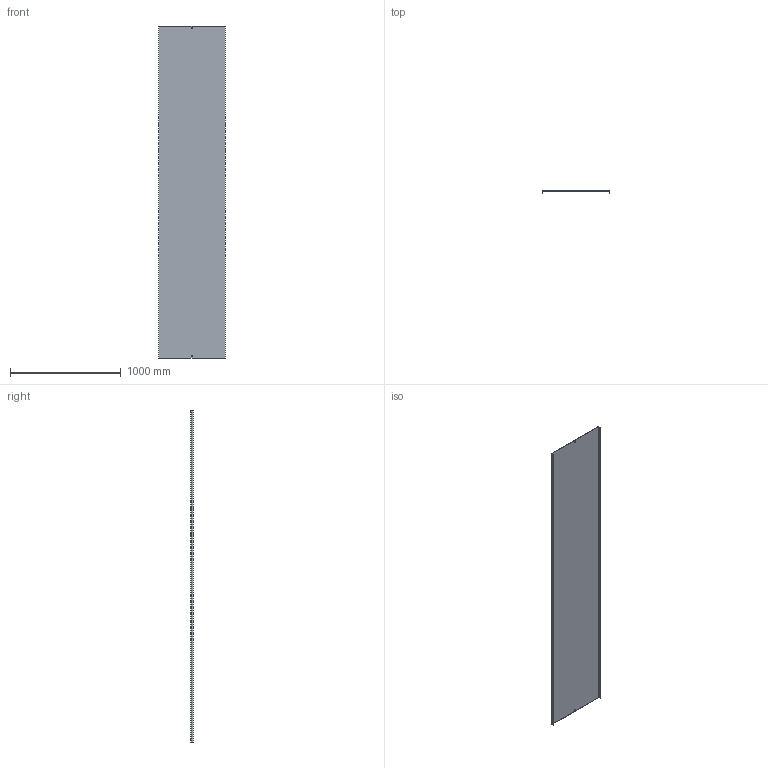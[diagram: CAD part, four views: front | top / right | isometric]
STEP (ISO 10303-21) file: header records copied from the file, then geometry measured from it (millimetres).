
FILE_DESCRIPTION (( 'STEP AP214' ), '1' );
FILE_NAME ('05N3R600.step', '2025-02-21T14:44:50', ( '' ), ( '' ), 'SwSTEP 2.0', 'SolidWorks 2023', '' );
FILE_SCHEMA (( 'AUTOMOTIVE_DESIGN' ));
Length unit declared in the file: millimetre
Products named in the file (1): 05N3R600
Bounding box: 603 x 20 x 3000 mm (x, y, z)
Volume: 2879824.5 mm3; surface area: 3850779 mm2
Topology: 1 solids, 1 shells, 18 faces, 48 edges, 32 vertices
Faces by surface type: plane 18
Entity records: 583 total; most frequent: CARTESIAN_POINT 99, ORIENTED_EDGE 96, DIRECTION 86, EDGE_CURVE 48, LINE 48, VECTOR 48, VERTEX_POINT 32, EDGE_LOOP 22
